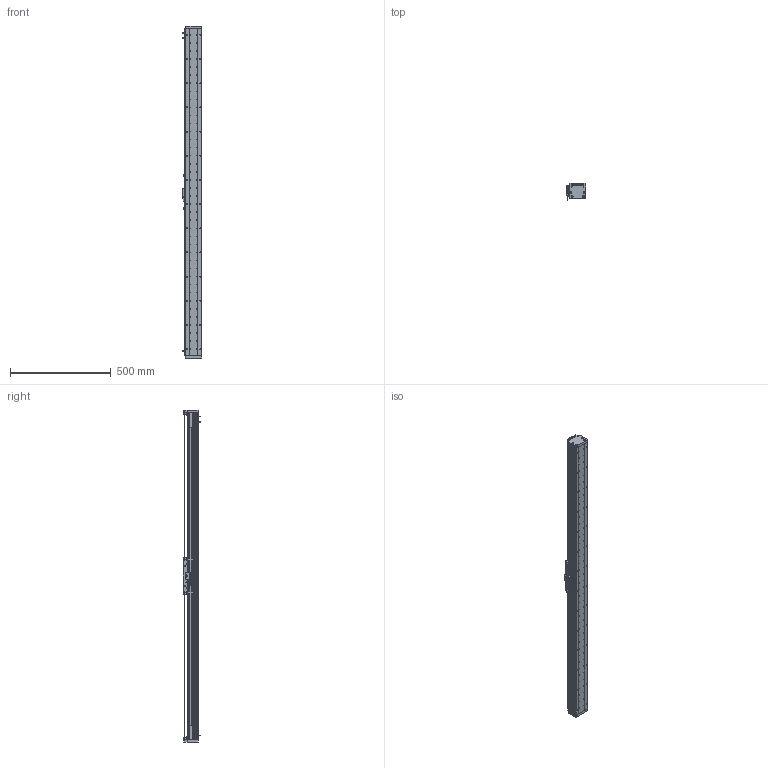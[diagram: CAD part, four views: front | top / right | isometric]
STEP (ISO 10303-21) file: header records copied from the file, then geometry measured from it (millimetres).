
FILE_DESCRIPTION (( 'STEP AP203' ), '1' );
FILE_NAME ('DA-A82-B2-T1400-C010-0.2 眻盄萇儂.STEP', '2025-08-13T03:09:55', ( '' ), ( '' ), 'SwSTEP 2.0', 'SolidWorks 2019', '' );
FILE_SCHEMA (( 'CONFIG_CONTROL_DESIGN' ));
Length unit declared in the file: millimetre
Products named in the file (23): 复件 纯铜油杯 6x6mm^AU82-M 滚珠滑台; AU82-M-00 珨极趙賑雄怢啣; 葩璃 鞠褒情蹟譫 M3^DA-A82-B2-T-C010-0.2; 复件 复件 DA82-XJ-00 缓冲橡胶^DA-A82-B2-T-C010-0.2; IU-AU82-L 菁釱絳寢; 葩璃 葩璃 17517-0000-002-00 傷啣^DA-A82-B2-T-C010-0.2; 复件 复件 复件 DA82 钢带盖板^DA-A82-B2-T-C010-0.2(默认); 复件 复件 17517-0000-004-00  钢带压块^DA-A82-B2-T-C010-0.2(默认); IU-AU82-L-00 菁釱(L1620); 葩璃 DA82-B2-DP-00 結え^AU82-M 幗紩賑怢; AU82-HT-M-00 賑雄怢啣; 复件 DA95-GT-T-00 底座钢轨^IU-AU82-L 底座导轨; AU82-M 幗紩賑怢; DA-A60-GYP-DMT-00 光电感应片^DA-A82-B2-T-C010-0.2(默认); 葩璃 BKM01-W040-TRL^DA-A82-B2-T-C010-0.2; 葩璃 DA60-DMT-DTJ-00 黍杅芛盓殤^DA-A82-B2-T-C010-0.2; 葩璃 DMT-010 1米m 0.2M^DA-A82-B2-T-C010-0.2; 葩璃 PM-T45^DA-A82-B2-T-C010-0.2; ｸｴｼ BKM02-W040-C1-TP-DA-3.0 ﾖｱﾏﾟｵ扈巐ｯﾗﾓ^DA-A82-B2-T-C010-0.2; 复件 复件 17517-0000-003-00 钢带拉块^DA-A82-B2-T-C010-0.2; DA-A82-B2-T1400-C010-0.2 眻盄萇儂; 复件 DA95-B2-GT-00 滑块钢轨^AU82-M-00 一体化滑动台板; 葩璃 XD-U-02  棠掑喜^DA-A82-B2-T-C010-0.2
Assembly tree (40 placements, depth 4):
  DA-A82-B2-T1400-C010-0.2 眻盄萇儂
    IU-AU82-L 菁釱絳寢
      IU-AU82-L-00 菁釱(L1620)
      复件 DA95-GT-T-00 底座钢轨^IU-AU82-L 底座导轨  x2
    AU82-M 幗紩賑怢
      AU82-M-00 珨极趙賑雄怢啣
        AU82-HT-M-00 賑雄怢啣
        复件 DA95-B2-GT-00 滑块钢轨^AU82-M-00 一体化滑动台板  x4
      葩璃 DA82-B2-DP-00 結え^AU82-M 幗紩賑怢  x2
      复件 纯铜油杯 6x6mm^AU82-M 滚珠滑台  x2
    葩璃 DA60-DMT-DTJ-00 黍杅芛盓殤^DA-A82-B2-T-C010-0.2
    葩璃 DMT-010 1米m 0.2M^DA-A82-B2-T-C010-0.2
    DA-A60-GYP-DMT-00 光电感应片^DA-A82-B2-T-C010-0.2(默认)  x2
    ｸｴｼ BKM02-W040-C1-TP-DA-3.0 ﾖｱﾏﾟｵ扈巐ｯﾗﾓ^DA-A82-B2-T-C010-0.2
    复件 复件 17517-0000-003-00 钢带拉块^DA-A82-B2-T-C010-0.2  x2
    复件 复件 DA82-XJ-00 缓冲橡胶^DA-A82-B2-T-C010-0.2  x2
    复件 复件 17517-0000-004-00  钢带压块^DA-A82-B2-T-C010-0.2(默认)  x2
    葩璃 葩璃 17517-0000-002-00 傷啣^DA-A82-B2-T-C010-0.2  x2
    复件 复件 复件 DA82 钢带盖板^DA-A82-B2-T-C010-0.2(默认)
    葩璃 BKM01-W040-TRL^DA-A82-B2-T-C010-0.2
    葩璃 PM-T45^DA-A82-B2-T-C010-0.2  x3
    葩璃 XD-U-02  棠掑喜^DA-A82-B2-T-C010-0.2
    葩璃 鞠褒情蹟譫 M3^DA-A82-B2-T-C010-0.2  x6
Bounding box: 98.95 x 87.2 x 1648 mm (x, y, z)
Volume: 4751216.6 mm3; surface area: 1441095.5 mm2
Topology: 44 solids, 68 shells, 2413 faces, 6404 edges, 4042 vertices
Faces by surface type: cylinder 1193, plane 930, cone 272, bspline 8, torus 8, sphere 2
Entity records: 67179 total; most frequent: CARTESIAN_POINT 15315, DIRECTION 10495, ORIENTED_EDGE 9912, EDGE_CURVE 4956, AXIS2_PLACEMENT_3D 4027, VERTEX_POINT 3226, EDGE_LOOP 2522, VECTOR 2441
